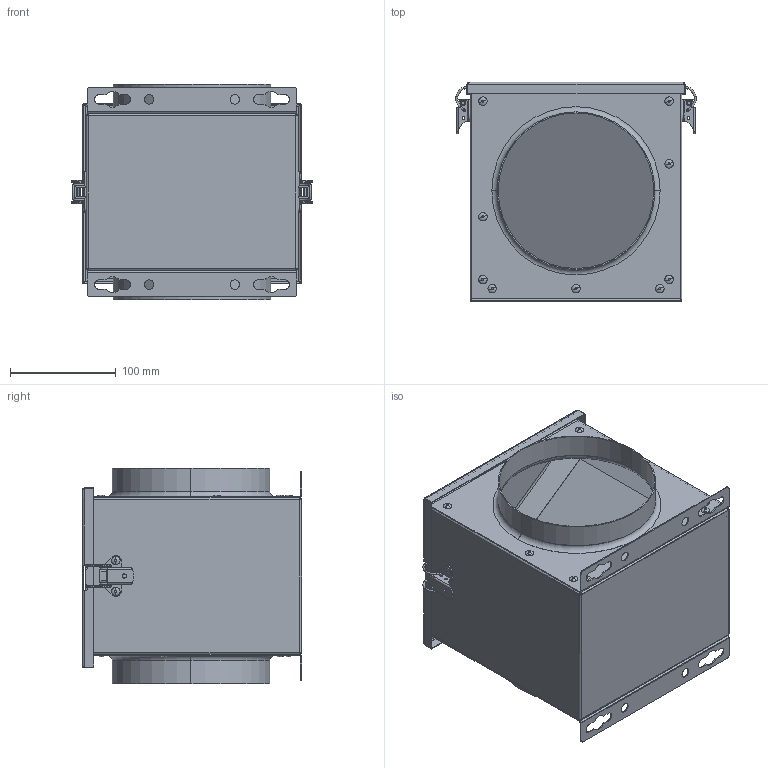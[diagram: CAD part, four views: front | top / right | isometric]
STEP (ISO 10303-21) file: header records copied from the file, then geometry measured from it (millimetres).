
FILE_DESCRIPTION (( 'STEP AP203' ), '1' );
FILE_NAME ('112680-01_FV150_step.step', '2020-08-26T10:46:10', ( '' ), ( '' ), 'SwSTEP 2.0', 'SolidWorks 2017', '' );
FILE_SCHEMA (( 'CONFIG_CONTROL_DESIGN' ));
Length unit declared in the file: millimetre
Products named in the file (1): 112680-01_FV150_step
Bounding box: 227.59 x 207 x 204 mm (x, y, z)
Surface area: 504859.2 mm2 (no closed solid volume)
Topology: 0 solids, 45 shells, 546 faces, 1583 edges, 1032 vertices
Faces by surface type: cylinder 259, plane 153, torus 78, bspline 56
Entity records: 19569 total; most frequent: CARTESIAN_POINT 4967, DIRECTION 3302, ORIENTED_EDGE 2656, EDGE_CURVE 1583, AXIS2_PLACEMENT_3D 1293, VERTEX_POINT 1032, CIRCLE 802, VECTOR 716
